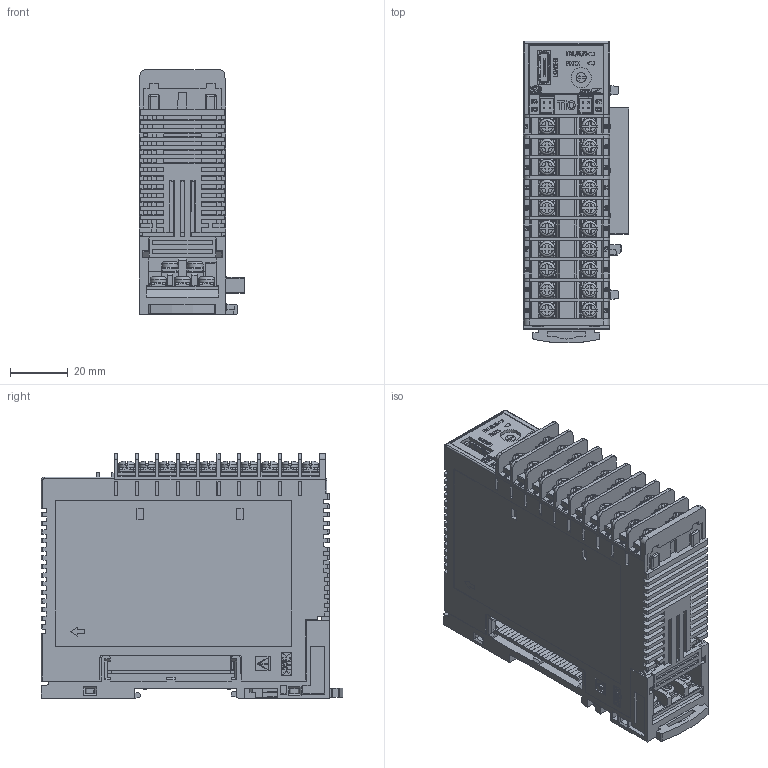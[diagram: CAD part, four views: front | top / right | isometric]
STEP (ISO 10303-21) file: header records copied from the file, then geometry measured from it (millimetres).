
FILE_DESCRIPTION (( 'STEP AP203' ), '1' );
FILE_NAME ('SRZ(Z-TIO-AT-CT—L)_WEB.STEP', '2018-08-02T02:13:23', ( '' ), ( '' ), 'SwSTEP 2.0', 'SolidWorks 2016', '' );
FILE_SCHEMA (( 'CONFIG_CONTROL_DESIGN' ));
Length unit declared in the file: millimetre
Products named in the file (3): SRZ（基本設計-端子AT_CT有)_WEB; KSRZ-54(1)_WEB_デフォルト; SRZ(Z-TIO-AT-CT有)_WEB
Assembly tree (2 placements, depth 2):
  SRZ(Z-TIO-AT-CT有)_WEB
    SRZ（基本設計-端子AT_CT有)_WEB
    KSRZ-54(1)_WEB_デフォルト
Bounding box: 36.65 x 104.76 x 85 mm (x, y, z)
Volume: 180640 mm3; surface area: 57810.8 mm2
Topology: 3 solids, 6 shells, 5738 faces, 15493 edges, 9963 vertices
Faces by surface type: plane 3786, bspline 958, cylinder 822, sphere 108, torus 56, cone 8
Entity records: 206241 total; most frequent: CARTESIAN_POINT 68250, ORIENTED_EDGE 30754, DIRECTION 24720, EDGE_CURVE 15377, VECTOR 11398, LINE 11398, VERTEX_POINT 9955, AXIS2_PLACEMENT_3D 6661
